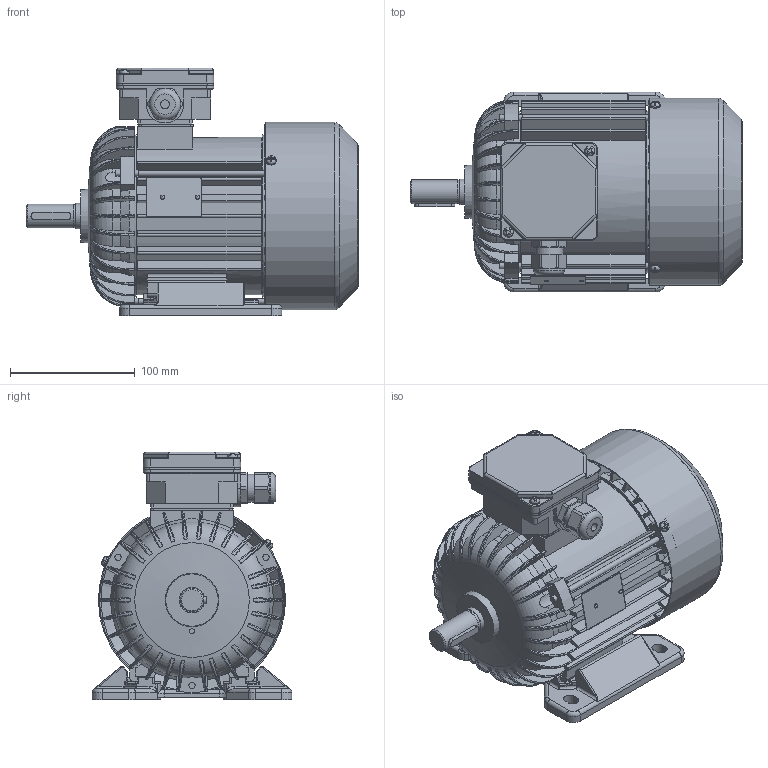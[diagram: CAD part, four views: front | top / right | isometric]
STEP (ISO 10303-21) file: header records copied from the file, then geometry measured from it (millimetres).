
FILE_DESCRIPTION(/* description */ ('Unknown'),/* implementation_level */ '2;1');
FILE_NAME(/* name */ 'Sh80-2A',/* time_stamp */ '2019-02-01T12:47:06+01:00',/* author */ ('Klaudiusz Szlosek'),/* organization */ ('BESEL S.A.'),/* preprocessor_version */ 'ST-DEVELOPER v16.7',/* originating_system */ 'DEX',/* authorisation */ $);
FILE_SCHEMA (('AUTOMOTIVE_DESIGN {1 0 10303 214 3 1 1}'));
Length unit declared in the file: millimetre
Products named in the file (1): Sh80-2A
Bounding box: 265.77 x 160 x 198.5 mm (x, y, z)
Volume: 900061.5 mm3; surface area: 497177.1 mm2
Topology: 2 solids, 2 shells, 2893 faces, 8191 edges, 5268 vertices
Faces by surface type: plane 1368, cylinder 935, torus 220, bspline 204, cone 146, sphere 20
Full cylindrical faces by diameter (mm): 2 x2, 2.4 x2, 3 x1, 3.7 x8, 4 x4, 4.5 x1, 4.6 x3, 4.8 x2, 5 x8, 5.5 x3, 6.5 x4, 7 x1, 8 x9, 18.596 x1, 18.996 x1, 19.296 x1, 19.496 x2, 19.896 x1, 20.296 x2, 20.396 x2, 20.4 x2, 22.3 x1, 25 x1, 25.495 x1, 25.645 x1, 25.995 x3, 26.045 x1, 28.796 x4, 34 x2, 38.198 x4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
Entity records: 120523 total; most frequent: CARTESIAN_POINT 28252, ORIENTED_EDGE 15644, DIRECTION 14262, EDGE_CURVE 7822, AXIS2_PLACEMENT_3D 5204, VERTEX_POINT 5154, LINE 3854, VECTOR 3854
